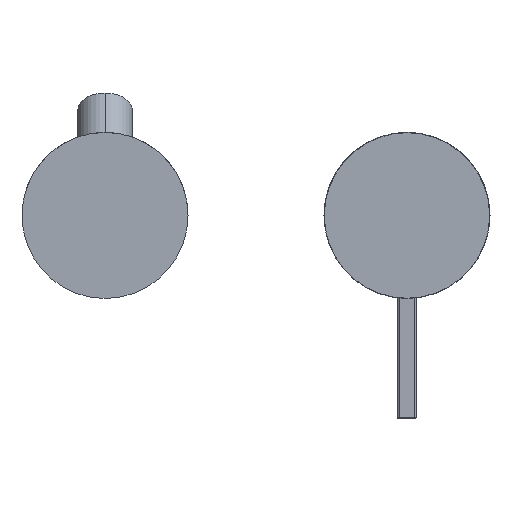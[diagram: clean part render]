
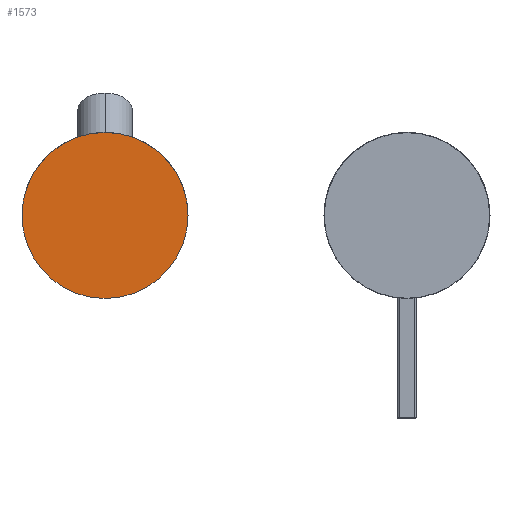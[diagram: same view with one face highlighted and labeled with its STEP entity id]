
A CAD part, front view. The second image highlights one B-rep face of the part: STEP entity #1573.
In plain terms, the highlighted planar face has unit normal (0, -1, 0).
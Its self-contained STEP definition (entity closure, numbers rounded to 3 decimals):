
#130=CARTESIAN_POINT('',(-100.,28.5,0.));
#131=DIRECTION('',(0.,-1.,0.));
#132=DIRECTION('',(-1.,0.,0.));
#133=AXIS2_PLACEMENT_3D('',#130,#131,#132);
#135=CARTESIAN_POINT('',(-100.,28.5,0.));
#136=DIRECTION('',(0.,-1.,0.));
#137=DIRECTION('',(1.,0.,0.));
#138=AXIS2_PLACEMENT_3D('',#135,#136,#137);
#1471=CARTESIAN_POINT('',(-127.5,28.5,0.));
#1472=CARTESIAN_POINT('',(-72.5,28.5,0.));
#1473=VERTEX_POINT('',#1471);
#1474=VERTEX_POINT('',#1472);
#1562=CARTESIAN_POINT('',(-100.,28.5,0.));
#1563=DIRECTION('',(0.,-1.,0.));
#1564=DIRECTION('',(-1.,0.,0.));
#1565=AXIS2_PLACEMENT_3D('',#1562,#1563,#1564);
#1566=PLANE('',#1565);
#1568=ORIENTED_EDGE('',*,*,#1567,.F.);
#1570=ORIENTED_EDGE('',*,*,#1569,.F.);
#1571=EDGE_LOOP('',(#1568,#1570));
#1572=FACE_OUTER_BOUND('',#1571,.F.);
#1573=ADVANCED_FACE('',(#1572),#1566,.T.);
#134=CIRCLE('',#133,27.5);
#139=CIRCLE('',#138,27.5);
#1567=EDGE_CURVE('',#1473,#1474,#134,.T.);
#1569=EDGE_CURVE('',#1474,#1473,#139,.T.);
